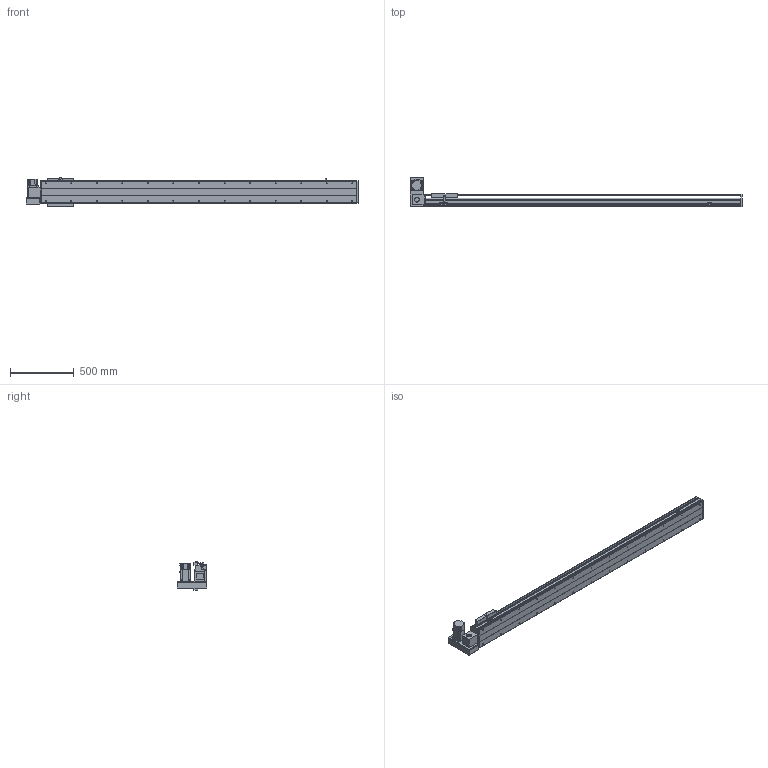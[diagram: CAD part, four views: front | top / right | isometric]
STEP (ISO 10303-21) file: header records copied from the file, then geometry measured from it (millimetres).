
FILE_DESCRIPTION(/* description */ ('STEP AP214'),/* implementation_level */ '2;1');
FILE_NAME(/* name */ 'PBS200-P40-S2100-LU-T75-C1-N(0)',/* time_stamp */ '2022-06-11T09:02:34+02:00',/* author */ ('License CC BY-ND 4.0'),/* organization */ ('CADENAS'),/* preprocessor_version */ 'ST-DEVELOPER v18.102',/* originating_system */ 'PARTsolutions',/* authorisation */ ' ');
FILE_SCHEMA (('AUTOMOTIVE_DESIGN {1 0 10303 214 3 1 1}'));
Length unit declared in the file: millimetre
Products named in the file (7): PBS200-P40-S2100-LU-T75-C1-N(0); PBS200_sensor; PBS200_plant; PBS200_sliser; T75-p1; PBS200T-LU_motors; PBS200-S2100()_body
Assembly tree (8 placements, depth 2):
  PBS200-P40-S2100-LU-T75-C1-N(0)
    PBS200_sensor  x3
    PBS200_plant
    PBS200_sliser
    T75-p1
    PBS200T-LU_motors
    PBS200-S2100()_body
Bounding box: 2600 x 231 x 221 mm (x, y, z)
Volume: 18106539.4 mm3; surface area: 2902310.1 mm2
Topology: 8 solids, 8 shells, 950 faces, 2424 edges, 1578 vertices
Faces by surface type: plane 584, cylinder 308, cone 58
Full cylindrical faces by diameter (mm): 2.459 x6, 3.242 x4, 4.5 x6, 4.917 x4, 5 x6, 6 x7, 6.6 x8, 6.647 x30, 8 x6, 10 x4, 12 x8, 38 x2, 40 x1, 70 x1
Entity records: 25181 total; most frequent: DIRECTION 4447, CARTESIAN_POINT 4282, ORIENTED_EDGE 4042, EDGE_CURVE 2021, AXIS2_PLACEMENT_3D 1567, VERTEX_POINT 1402, LINE 1313, VECTOR 1313
